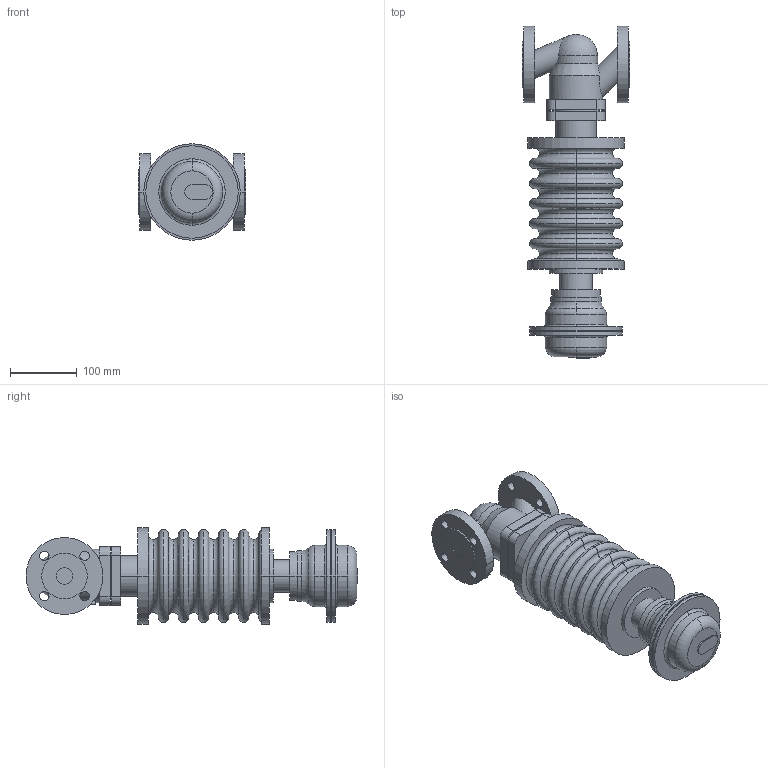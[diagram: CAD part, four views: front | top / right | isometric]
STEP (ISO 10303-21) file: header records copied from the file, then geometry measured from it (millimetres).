
FILE_DESCRIPTION( ( '' ), '1' );
FILE_NAME( 'F:/DE-SHS/TB/OR/04-Sonstiges/daten/files_3d/701-PREDU/PREDU-PN40/c000006302.stp', '2016-06-30T05:54:42', ( '' ), ( '' ), ' ', ' ', ' ' );
FILE_SCHEMA( ( 'CONFIG_CONTROL_DESIGN' ) );
Length unit declared in the file: millimetre
Products named in the file (2): 1; 2
Bounding box: 160 x 496 x 144 mm (x, y, z)
Volume: 4310272.1 mm3; surface area: 330812.4 mm2
Topology: 2 solids, 2 shells, 182 faces, 435 edges, 279 vertices
Faces by surface type: cylinder 72, torus 56, plane 51, cone 2, sphere 1
Entity records: 5887 total; most frequent: CARTESIAN_POINT 1292, DIRECTION 1077, ORIENTED_EDGE 866, AXIS2_PLACEMENT_3D 470, EDGE_CURVE 433, CIRCLE 280, VERTEX_POINT 279, EDGE_LOOP 222
